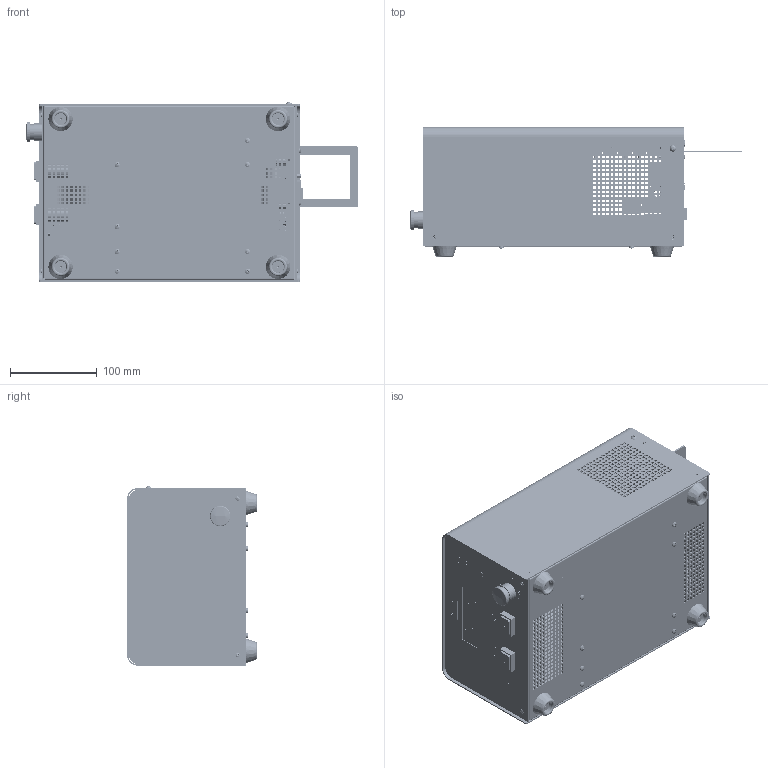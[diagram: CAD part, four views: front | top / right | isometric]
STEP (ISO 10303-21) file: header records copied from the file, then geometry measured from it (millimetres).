
FILE_DESCRIPTION (( 'STEP AP203' ), '1' );
FILE_NAME ('Einachs-Controller MC1-20 - ArtNr 381518 0020.STEP', '2013-02-26T07:59:56', ( 'test' ), ( 'Microsoft' ), 'SwSTEP 2.0', 'SolidWorks 2012', '' );
FILE_SCHEMA (( 'CONFIG_CONTROL_DESIGN' ));
Length unit declared in the file: millimetre
Products named in the file (1): Einachs-Controller MC1-20 - ArtNr 381518 0020
Bounding box: 381.78 x 149 x 206.1 mm (x, y, z)
Volume: 702688 mm3; surface area: 819556 mm2
Topology: 68 solids, 68 shells, 14331 faces, 37877 edges, 24709 vertices
Faces by surface type: plane 11571, bspline 1926, cylinder 640, cone 91, torus 73, sphere 30
Full cylindrical faces by diameter (mm): 1 x18, 1.25 x30, 1.75 x15, 2 x54, 2.5 x30, 2.591 x18, 3 x39, 3.048 x4, 3.2 x13, 3.5 x10, 3.81 x1, 4 x6, 4.2 x1, 4.5 x1, 5 x18, 5.08 x2, 5.182 x6, 6 x12, 6.096 x2, 6.858 x1, 7 x1, 8 x7, 8.128 x2, 10 x1, 10.16 x2, 13.5 x4, 16 x10, 18 x1, 20 x2, 22 x1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
Entity records: 533420 total; most frequent: CARTESIAN_POINT 189222, ORIENTED_EDGE 74612, DIRECTION 59920, EDGE_CURVE 37306, LINE 31676, VECTOR 31676, VERTEX_POINT 24609, EDGE_LOOP 17891
